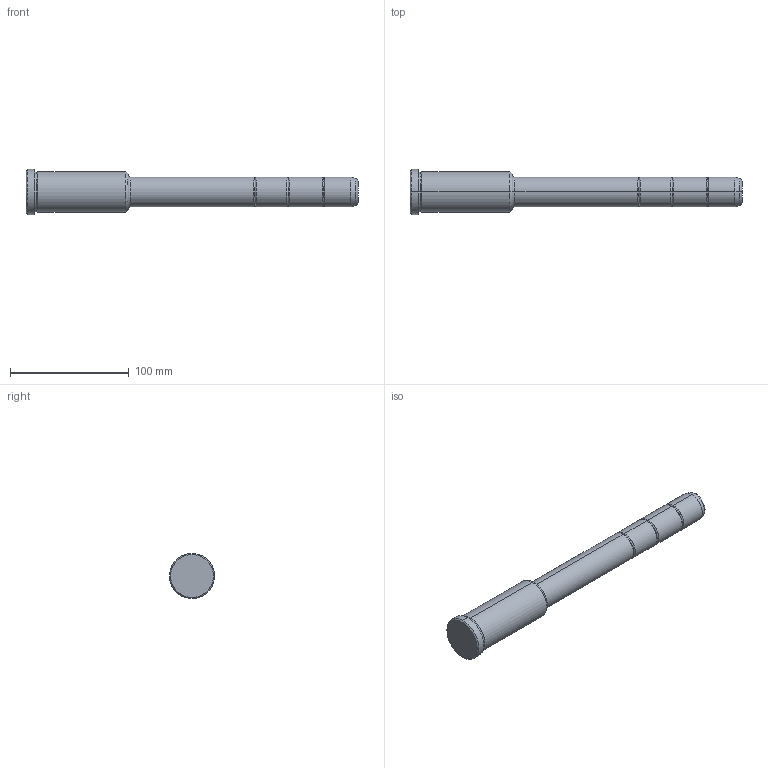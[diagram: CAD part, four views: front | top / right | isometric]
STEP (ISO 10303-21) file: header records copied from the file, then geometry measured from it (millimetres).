
FILE_DESCRIPTION(('CATIA V5 STEP Exchange'),'2;1');
FILE_NAME('C:\Users\Utente\Desktop\IO LAVORO\3D X SITO CF\X SITO\PLASTICA\351\351-25X86X280.stp','2021-09-07T11:36:14+00:00',('none'),('none'),'CATIA Version 5 Release 20 GA (IN-10)','CATIA V5 STEP AP203','none');
FILE_SCHEMA(('CONFIG_CONTROL_DESIGN'));
Length unit declared in the file: millimetre
Products named in the file (1): 351-25X86X280
Bounding box: 280 x 38 x 38 mm (x, y, z)
Volume: 174013.8 mm3; surface area: 26520.2 mm2
Topology: 1 solids, 1 shells, 42 faces, 118 edges, 80 vertices
Faces by surface type: torus 20, cylinder 12, cone 6, plane 4
Entity records: 1472 total; most frequent: CARTESIAN_POINT 353, ORIENTED_EDGE 236, DIRECTION 194, AXIS2_PLACEMENT_3D 135, EDGE_CURVE 118, CIRCLE 92, VERTEX_POINT 80, EDGE_LOOP 44
